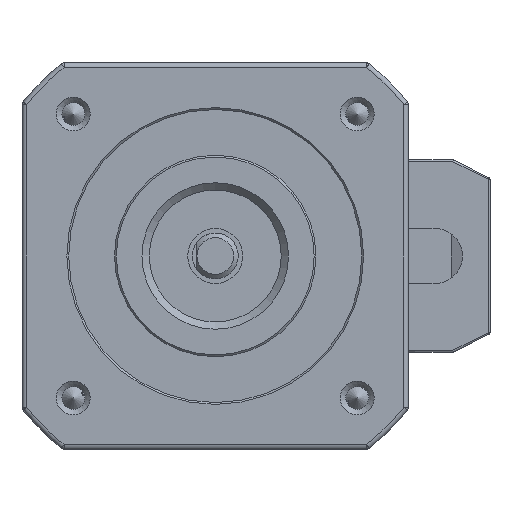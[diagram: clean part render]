
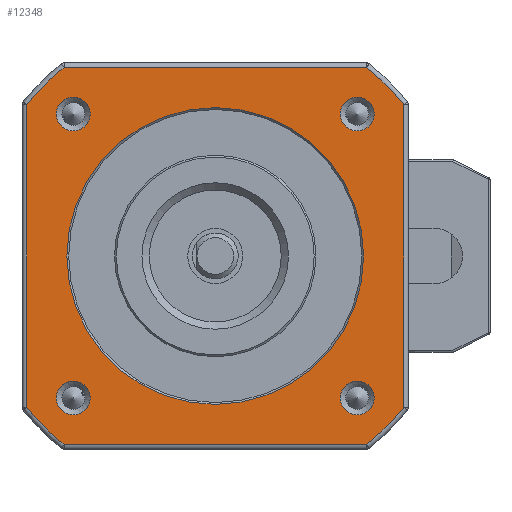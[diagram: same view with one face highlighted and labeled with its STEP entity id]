
A CAD part, left-side view. The second image highlights one B-rep face of the part: STEP entity #12348.
In plain terms, the highlighted planar face has unit normal (-1, 0, 0).
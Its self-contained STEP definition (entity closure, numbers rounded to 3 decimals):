
#141 = EDGE_CURVE ( 'NONE', #5518, #5518, #6171, .T. ) ;
#146 = CIRCLE ( 'NONE', #4001, 1.85 ) ;
#148 = FACE_OUTER_BOUND ( 'NONE', #8060, .T. ) ;
#263 = DIRECTION ( 'NONE',  ( 1., 0., 0. ) ) ;
#327 = EDGE_LOOP ( 'NONE', ( #10041 ) ) ;
#555 = CARTESIAN_POINT ( 'NONE',  ( 0., 16.511, -20.6 ) ) ;
#661 = CARTESIAN_POINT ( 'NONE',  ( 0., -15.5, -17.35 ) ) ;
#845 = LINE ( 'NONE', #13535, #7436 ) ;
#882 = CARTESIAN_POINT ( 'NONE',  ( 0., -15.5, 13.65 ) ) ;
#1234 = DIRECTION ( 'NONE',  ( 1., 0., 0. ) ) ;
#1386 = VERTEX_POINT ( 'NONE', #1913 ) ;
#1458 = DIRECTION ( 'NONE',  ( 0., 0., -1. ) ) ;
#1795 = DIRECTION ( 'NONE',  ( 1., 0., 0. ) ) ;
#1913 = CARTESIAN_POINT ( 'NONE',  ( 0., -20.6, 16.511 ) ) ;
#1915 = VECTOR ( 'NONE', #2874, 1000. ) ;
#2117 = EDGE_CURVE ( 'NONE', #6823, #6823, #5918, .T. ) ;
#2547 = VERTEX_POINT ( 'NONE', #555 ) ;
#2874 = DIRECTION ( 'NONE',  ( 0., -1., 0. ) ) ;
#3218 = ORIENTED_EDGE ( 'NONE', *, *, #6866, .T. ) ;
#3479 = EDGE_CURVE ( 'NONE', #8819, #1386, #14930, .T. ) ;
#3482 = DIRECTION ( 'NONE',  ( 1., 0., 0. ) ) ;
#3483 = LINE ( 'NONE', #10124, #1915 ) ;
#3490 = EDGE_LOOP ( 'NONE', ( #5636 ) ) ;
#3509 = CIRCLE ( 'NONE', #15072, 1.85 ) ;
#3616 = VERTEX_POINT ( 'NONE', #14758 ) ;
#3650 = CARTESIAN_POINT ( 'NONE',  ( 0., 16.511, 20.6 ) ) ;
#3707 = DIRECTION ( 'NONE',  ( 0., 0., -1. ) ) ;
#3842 = ORIENTED_EDGE ( 'NONE', *, *, #9751, .T. ) ;
#3895 = CARTESIAN_POINT ( 'NONE',  ( 0., 0., 0. ) ) ;
#4001 = AXIS2_PLACEMENT_3D ( 'NONE', #9429, #3482, #11724 ) ;
#4018 = AXIS2_PLACEMENT_3D ( 'NONE', #3895, #4956, #7472 ) ;
#4833 = CARTESIAN_POINT ( 'NONE',  ( 0., 0., 0. ) ) ;
#4859 = CIRCLE ( 'NONE', #5548, 26.4 ) ;
#4956 = DIRECTION ( 'NONE',  ( -1., 0., 0. ) ) ;
#4979 = EDGE_LOOP ( 'NONE', ( #6403 ) ) ;
#5003 = CARTESIAN_POINT ( 'NONE',  ( 0., -15.5, 15.5 ) ) ;
#5093 = DIRECTION ( 'NONE',  ( -1., 0., 0. ) ) ;
#5179 = LINE ( 'NONE', #12701, #11220 ) ;
#5259 = AXIS2_PLACEMENT_3D ( 'NONE', #9740, #1234, #9697 ) ;
#5425 = CARTESIAN_POINT ( 'NONE',  ( 0., 20.6, -16.511 ) ) ;
#5450 = DIRECTION ( 'NONE',  ( 0., 1., 0. ) ) ;
#5518 = VERTEX_POINT ( 'NONE', #7217 ) ;
#5548 = AXIS2_PLACEMENT_3D ( 'NONE', #14432, #11824, #8243 ) ;
#5587 = CIRCLE ( 'NONE', #12777, 26.4 ) ;
#5636 = ORIENTED_EDGE ( 'NONE', *, *, #13465, .T. ) ;
#5693 = VERTEX_POINT ( 'NONE', #5425 ) ;
#5918 = CIRCLE ( 'NONE', #9176, 16.2 ) ;
#5981 = VERTEX_POINT ( 'NONE', #11956 ) ;
#6171 = CIRCLE ( 'NONE', #6696, 1.85 ) ;
#6230 = VERTEX_POINT ( 'NONE', #3650 ) ;
#6403 = ORIENTED_EDGE ( 'NONE', *, *, #7254, .T. ) ;
#6548 = DIRECTION ( 'NONE',  ( 0., 0., -1. ) ) ;
#6696 = AXIS2_PLACEMENT_3D ( 'NONE', #14883, #1795, #6548 ) ;
#6748 = ORIENTED_EDGE ( 'NONE', *, *, #10672, .T. ) ;
#6813 = VERTEX_POINT ( 'NONE', #661 ) ;
#6815 = CARTESIAN_POINT ( 'NONE',  ( 0., 0., 0. ) ) ;
#6823 = VERTEX_POINT ( 'NONE', #7987 ) ;
#6866 = EDGE_CURVE ( 'NONE', #1386, #5981, #5587, .T. ) ;
#7121 = ORIENTED_EDGE ( 'NONE', *, *, #9125, .T. ) ;
#7217 = CARTESIAN_POINT ( 'NONE',  ( 0., 15.5, -17.35 ) ) ;
#7254 = EDGE_CURVE ( 'NONE', #6813, #6813, #146, .T. ) ;
#7305 = DIRECTION ( 'NONE',  ( 0., 0., -1. ) ) ;
#7423 = CIRCLE ( 'NONE', #12397, 1.85 ) ;
#7436 = VECTOR ( 'NONE', #9860, 1000. ) ;
#7472 = DIRECTION ( 'NONE',  ( 0., 0., -1. ) ) ;
#7521 = CARTESIAN_POINT ( 'NONE',  ( 0., 0., 0. ) ) ;
#7526 = CARTESIAN_POINT ( 'NONE',  ( 0., -20.6, 16.685 ) ) ;
#7849 = FACE_BOUND ( 'NONE', #327, .T. ) ;
#7902 = ORIENTED_EDGE ( 'NONE', *, *, #12266, .T. ) ;
#7987 = CARTESIAN_POINT ( 'NONE',  ( 0., 0., -16.2 ) ) ;
#8060 = EDGE_LOOP ( 'NONE', ( #3218, #13810, #7902, #7121, #11045, #6748, #3842, #14765 ) ) ;
#8243 = DIRECTION ( 'NONE',  ( 0., 0., -1. ) ) ;
#8546 = VERTEX_POINT ( 'NONE', #882 ) ;
#8597 = DIRECTION ( 'NONE',  ( 1., 0., 0. ) ) ;
#8613 = DIRECTION ( 'NONE',  ( 0., 0., 1. ) ) ;
#8627 = EDGE_CURVE ( 'NONE', #5981, #6230, #5179, .T. ) ;
#8819 = VERTEX_POINT ( 'NONE', #9487 ) ;
#8933 = VERTEX_POINT ( 'NONE', #9370 ) ;
#9125 = EDGE_CURVE ( 'NONE', #3616, #5693, #845, .T. ) ;
#9176 = AXIS2_PLACEMENT_3D ( 'NONE', #6815, #14174, #10585 ) ;
#9370 = CARTESIAN_POINT ( 'NONE',  ( 0., 15.5, 13.65 ) ) ;
#9429 = CARTESIAN_POINT ( 'NONE',  ( 0., -15.5, -15.5 ) ) ;
#9487 = CARTESIAN_POINT ( 'NONE',  ( 0., -20.6, -16.511 ) ) ;
#9489 = CARTESIAN_POINT ( 'NONE',  ( 0., -16.511, -20.6 ) ) ;
#9697 = DIRECTION ( 'NONE',  ( 0., 0., -1. ) ) ;
#9740 = CARTESIAN_POINT ( 'NONE',  ( 0., 16., 0. ) ) ;
#9751 = EDGE_CURVE ( 'NONE', #10840, #8819, #15349, .T. ) ;
#9846 = EDGE_CURVE ( 'NONE', #8546, #8546, #7423, .T. ) ;
#9860 = DIRECTION ( 'NONE',  ( 0., 0., -1. ) ) ;
#10041 = ORIENTED_EDGE ( 'NONE', *, *, #9846, .T. ) ;
#10124 = CARTESIAN_POINT ( 'NONE',  ( 0., -16.685, -20.6 ) ) ;
#10585 = DIRECTION ( 'NONE',  ( 0., 0., -1. ) ) ;
#10672 = EDGE_CURVE ( 'NONE', #2547, #10840, #3483, .T. ) ;
#10840 = VERTEX_POINT ( 'NONE', #9489 ) ;
#11045 = ORIENTED_EDGE ( 'NONE', *, *, #11819, .T. ) ;
#11050 = DIRECTION ( 'NONE',  ( -1., 0., 0. ) ) ;
#11220 = VECTOR ( 'NONE', #5450, 1000. ) ;
#11531 = VECTOR ( 'NONE', #8613, 1000. ) ;
#11724 = DIRECTION ( 'NONE',  ( 0., 0., -1. ) ) ;
#11819 = EDGE_CURVE ( 'NONE', #5693, #2547, #15037, .T. ) ;
#11824 = DIRECTION ( 'NONE',  ( -1., 0., 0. ) ) ;
#11956 = CARTESIAN_POINT ( 'NONE',  ( 0., -16.511, 20.6 ) ) ;
#12150 = PLANE ( 'NONE',  #5259 ) ;
#12266 = EDGE_CURVE ( 'NONE', #6230, #3616, #4859, .T. ) ;
#12348 = ADVANCED_FACE ( 'NONE', ( #148, #12597, #7849, #13728, #15412, #14102 ), #12150, .F. ) ;
#12397 = AXIS2_PLACEMENT_3D ( 'NONE', #5003, #263, #3707 ) ;
#12597 = FACE_BOUND ( 'NONE', #4979, .T. ) ;
#12649 = ORIENTED_EDGE ( 'NONE', *, *, #2117, .T. ) ;
#12677 = EDGE_LOOP ( 'NONE', ( #12649 ) ) ;
#12701 = CARTESIAN_POINT ( 'NONE',  ( 0., 16.685, 20.6 ) ) ;
#12777 = AXIS2_PLACEMENT_3D ( 'NONE', #7521, #5093, #1458 ) ;
#13174 = AXIS2_PLACEMENT_3D ( 'NONE', #4833, #11050, #7305 ) ;
#13437 = EDGE_LOOP ( 'NONE', ( #14981 ) ) ;
#13465 = EDGE_CURVE ( 'NONE', #8933, #8933, #3509, .T. ) ;
#13535 = CARTESIAN_POINT ( 'NONE',  ( 0., 20.6, -16.685 ) ) ;
#13728 = FACE_BOUND ( 'NONE', #3490, .T. ) ;
#13810 = ORIENTED_EDGE ( 'NONE', *, *, #8627, .T. ) ;
#14102 = FACE_BOUND ( 'NONE', #12677, .T. ) ;
#14174 = DIRECTION ( 'NONE',  ( 1., 0., 0. ) ) ;
#14432 = CARTESIAN_POINT ( 'NONE',  ( 0., 0., 0. ) ) ;
#14549 = CARTESIAN_POINT ( 'NONE',  ( 0., 15.5, 15.5 ) ) ;
#14758 = CARTESIAN_POINT ( 'NONE',  ( 0., 20.6, 16.511 ) ) ;
#14765 = ORIENTED_EDGE ( 'NONE', *, *, #3479, .T. ) ;
#14883 = CARTESIAN_POINT ( 'NONE',  ( 0., 15.5, -15.5 ) ) ;
#14884 = DIRECTION ( 'NONE',  ( 0., 0., -1. ) ) ;
#14930 = LINE ( 'NONE', #7526, #11531 ) ;
#14981 = ORIENTED_EDGE ( 'NONE', *, *, #141, .T. ) ;
#15037 = CIRCLE ( 'NONE', #13174, 26.4 ) ;
#15072 = AXIS2_PLACEMENT_3D ( 'NONE', #14549, #8597, #14884 ) ;
#15349 = CIRCLE ( 'NONE', #4018, 26.4 ) ;
#15412 = FACE_BOUND ( 'NONE', #13437, .T. ) ;
